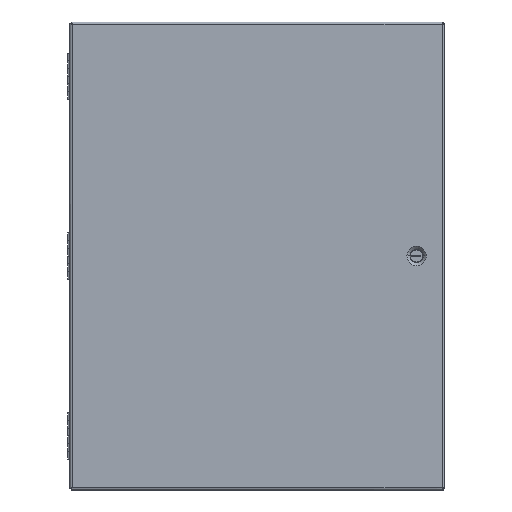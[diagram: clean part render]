
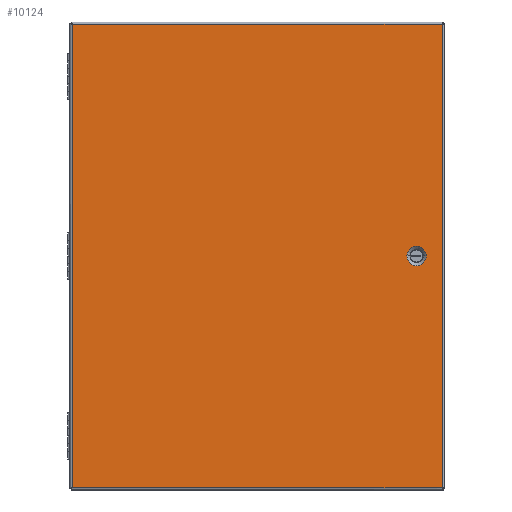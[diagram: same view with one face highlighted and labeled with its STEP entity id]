
A CAD part, top view. The second image highlights one B-rep face of the part: STEP entity #10124.
In plain terms, the highlighted planar face has unit normal (0, 0, 1).
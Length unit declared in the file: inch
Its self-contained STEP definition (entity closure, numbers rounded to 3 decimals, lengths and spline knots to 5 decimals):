
#3515 = CARTESIAN_POINT ( 'NONE',  ( 10.355, 0., 0.072 ) ) ;
#3527 = CARTESIAN_POINT ( 'NONE',  ( -12.013, 15.043, 0.072 ) ) ;
#3528 = CARTESIAN_POINT ( 'NONE',  ( 12.013, -15.043, 0.072 ) ) ;
#3529 = CARTESIAN_POINT ( 'NONE',  ( -12.013, -15.043, 0.072 ) ) ;
#3530 = DIRECTION ( 'NONE',  ( 0., -1., 0. ) ) ;
#3531 = VECTOR ( 'NONE', #3530, 39.37008 ) ;
#3532 = CARTESIAN_POINT ( 'NONE',  ( -12.013, 15.11593, 0.072 ) ) ;
#3533 = LINE ( 'NONE', #3532, #3531 ) ;
#3552 = DIRECTION ( 'NONE',  ( 1., 0., 0. ) ) ;
#3553 = VECTOR ( 'NONE', #3552, 39.37008 ) ;
#3554 = CARTESIAN_POINT ( 'NONE',  ( -12.08593, -15.043, 0.072 ) ) ;
#3555 = LINE ( 'NONE', #3554, #3553 ) ;
#3566 = CARTESIAN_POINT ( 'NONE',  ( 12.013, 15.043, 0.072 ) ) ;
#3567 = DIRECTION ( 'NONE',  ( 0., 1., 0. ) ) ;
#3568 = VECTOR ( 'NONE', #3567, 39.37008 ) ;
#3569 = CARTESIAN_POINT ( 'NONE',  ( 12.013, -15.11593, 0.072 ) ) ;
#3570 = LINE ( 'NONE', #3569, #3568 ) ;
#3571 = DIRECTION ( 'NONE',  ( -1., 0., 0. ) ) ;
#3572 = VECTOR ( 'NONE', #3571, 39.37008 ) ;
#3573 = CARTESIAN_POINT ( 'NONE',  ( 12.08593, 15.043, 0.072 ) ) ;
#3574 = LINE ( 'NONE', #3573, #3572 ) ;
#3587 = DIRECTION ( 'NONE',  ( 1., 0., 0. ) ) ;
#3588 = DIRECTION ( 'NONE',  ( 0., 0., 1. ) ) ;
#3590 = AXIS2_PLACEMENT_3D ( 'NONE', #3515, #3588, #3587 ) ;
#3591 = CIRCLE ( 'NONE', #3590, 0.62488 ) ;
#5103 = DIRECTION ( 'NONE',  ( 1., 0., 0. ) ) ;
#5104 = DIRECTION ( 'NONE',  ( 0., 0., 1. ) ) ;
#5105 = CARTESIAN_POINT ( 'NONE',  ( 10.355, 0., 0.072 ) ) ;
#5106 = AXIS2_PLACEMENT_3D ( 'NONE', #5105, #5104, #5103 ) ;
#5107 = CIRCLE ( 'NONE', #5106, 0.62488 ) ;
#5114 = CARTESIAN_POINT ( 'NONE',  ( 10.97988, 0., 0.072 ) ) ;
#6254 = CARTESIAN_POINT ( 'NONE',  ( 9.73012, 0., 0.072 ) ) ;
#6270 = DIRECTION ( 'NONE',  ( -1., 0., 0. ) ) ;
#6271 = DIRECTION ( 'NONE',  ( 0., 0., -1. ) ) ;
#6272 = CARTESIAN_POINT ( 'NONE',  ( -12.165, -15.195, 0.072 ) ) ;
#6273 = AXIS2_PLACEMENT_3D ( 'NONE', #6272, #6271, #6270 ) ;
#6274 = PLANE ( 'NONE',  #6273 ) ;
#6275 = FACE_BOUND ( 'NONE', #8744, .T. ) ;
#6279 = FACE_OUTER_BOUND ( 'NONE', #10123, .T. ) ;
#8721 = ORIENTED_EDGE ( 'NONE', *, *, #8722, .T. ) ;
#8722 = EDGE_CURVE ( 'NONE', #8724, #8725, #3555, .T. ) ;
#8723 = EDGE_CURVE ( 'NONE', #8726, #8724, #3533, .T. ) ;
#8724 = VERTEX_POINT ( 'NONE', #3529 ) ;
#8725 = VERTEX_POINT ( 'NONE', #3528 ) ;
#8726 = VERTEX_POINT ( 'NONE', #3527 ) ;
#8733 = EDGE_CURVE ( 'NONE', #9521, #10129, #3591, .T. ) ;
#8734 = ORIENTED_EDGE ( 'NONE', *, *, #9524, .F. ) ;
#8736 = ORIENTED_EDGE ( 'NONE', *, *, #8733, .F. ) ;
#8742 = ORIENTED_EDGE ( 'NONE', *, *, #8743, .T. ) ;
#8743 = EDGE_CURVE ( 'NONE', #8746, #8726, #3574, .T. ) ;
#8744 = EDGE_LOOP ( 'NONE', ( #8736, #8734 ) ) ;
#8745 = EDGE_CURVE ( 'NONE', #8725, #8746, #3570, .T. ) ;
#8746 = VERTEX_POINT ( 'NONE', #3566 ) ;
#8747 = ORIENTED_EDGE ( 'NONE', *, *, #8745, .T. ) ;
#9521 = VERTEX_POINT ( 'NONE', #5114 ) ;
#9524 = EDGE_CURVE ( 'NONE', #10129, #9521, #5107, .T. ) ;
#10123 = EDGE_LOOP ( 'NONE', ( #10191, #8721, #8747, #8742 ) ) ;
#10124 = ADVANCED_FACE ( 'NONE', ( #6279, #6275 ), #6274, .F. ) ;
#10129 = VERTEX_POINT ( 'NONE', #6254 ) ;
#10191 = ORIENTED_EDGE ( 'NONE', *, *, #8723, .T. ) ;
